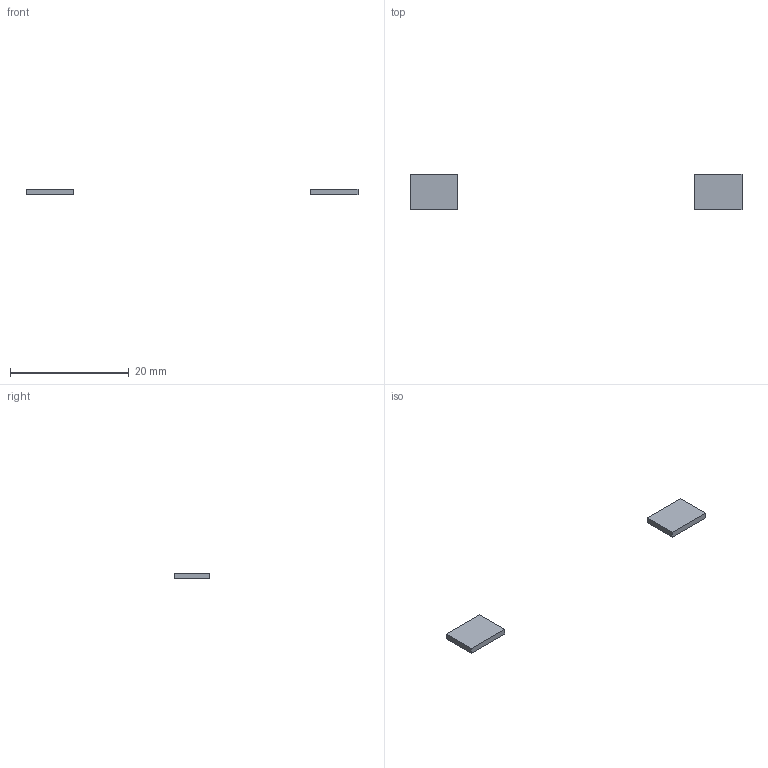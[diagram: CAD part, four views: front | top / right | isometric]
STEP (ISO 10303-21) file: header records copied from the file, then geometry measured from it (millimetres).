
FILE_DESCRIPTION(('Open CASCADE Model'),'2;1');
FILE_NAME('Open CASCADE Shape Model','2026-09-09T12:58:10',('Author'),( 'Open CASCADE'),'Open CASCADE STEP processor 7.9','Open CASCADE 7.9' ,'Unknown');
FILE_SCHEMA(('AUTOMOTIVE_DESIGN { 1 0 10303 214 1 1 1 1 }'));
Length unit declared in the file: millimetre
Products named in the file (3): Open CASCADE STEP translator 7.9 30; Open CASCADE STEP translator 7.9 30.1; Open CASCADE STEP translator 7.9 30.2
Assembly tree (2 placements, depth 2):
  Open CASCADE STEP translator 7.9 30
    Open CASCADE STEP translator 7.9 30.1
    Open CASCADE STEP translator 7.9 30.2
Bounding box: 56 x 6 x 1 mm (x, y, z)
Volume: 96 mm3; surface area: 248 mm2
Topology: 2 solids, 2 shells, 12 faces, 24 edges, 16 vertices
Faces by surface type: plane 12
Entity records: 664 total; most frequent: CARTESIAN_POINT 103, DIRECTION 102, LINE 72, VECTOR 72, ORIENTED_EDGE 48, PCURVE 48, DEFINITIONAL_REPRESENTATION 48, EDGE_CURVE 24
